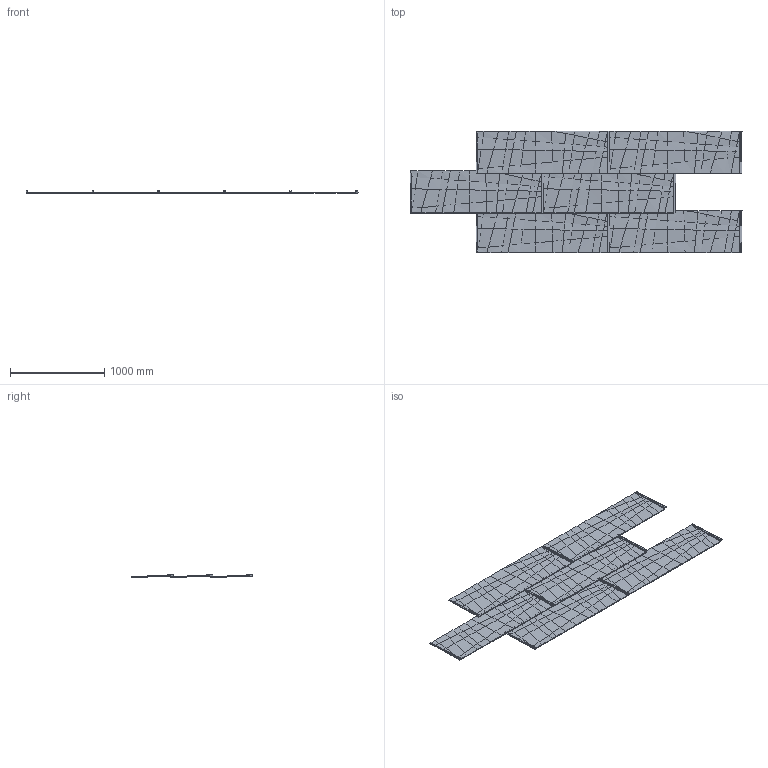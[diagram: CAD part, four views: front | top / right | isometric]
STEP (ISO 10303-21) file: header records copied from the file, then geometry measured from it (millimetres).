
FILE_DESCRIPTION(/* description */ (''),/* implementation_level */ '2;1');
FILE_NAME(/* name */ 'PREFA_FX',/* time_stamp */ '2020-07-21T11:25:57+02:00',/* author */ (''),/* organization */ (''),/* preprocessor_version */ 'ST-DEVELOPER v15',/* originating_system */ '',/* authorisation */ '');
FILE_SCHEMA (('AUTOMOTIVE_DESIGN'));
Length unit declared in the file: millimetre
Products named in the file (1): Document
Bounding box: 3517.8 x 1287.9 x 28.02 mm (x, y, z)
Surface area: 3994079.2 mm2 (no closed solid volume)
Topology: 0 solids, 6 shells, 444 faces, 1108 edges, 668 vertices
Faces by surface type: bspline 420, plane 24
Entity records: 13205 total; most frequent: CARTESIAN_POINT 6701, ORIENTED_EDGE 1884, EDGE_CURVE 1092, B_SPLINE_CURVE_WITH_KNOTS 1024, VERTEX_POINT 648, ADVANCED_FACE 444, FACE_OUTER_BOUND 444, EDGE_LOOP 444
